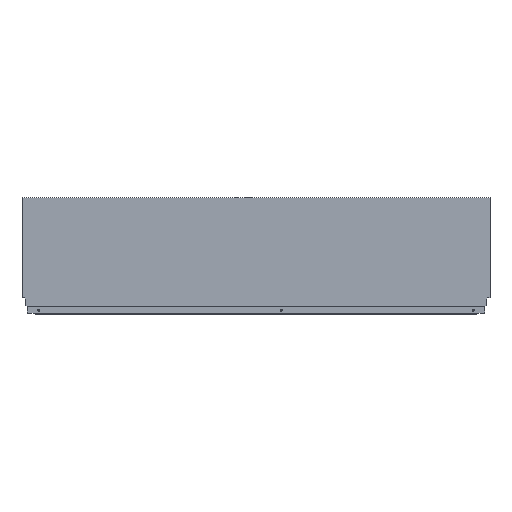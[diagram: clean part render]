
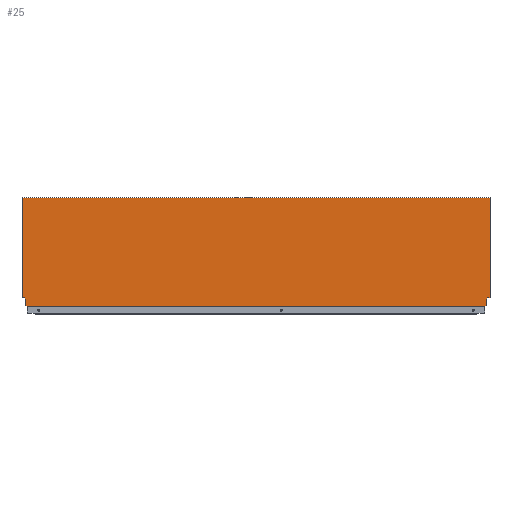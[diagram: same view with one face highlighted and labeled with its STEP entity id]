
A CAD part, top view. The second image highlights one B-rep face of the part: STEP entity #25.
In plain terms, the highlighted planar face has unit normal (0, 0, 1).
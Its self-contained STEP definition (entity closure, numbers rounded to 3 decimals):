
#25 = ADVANCED_FACE ( 'NONE', ( #519 ), #662, .T. ) ;
#39 = LINE ( 'NONE', #721, #46 ) ;
#42 = VECTOR ( 'NONE', #724, 1000. ) ;
#43 = LINE ( 'NONE', #727, #42 ) ;
#44 = VECTOR ( 'NONE', #728, 1000. ) ;
#46 = VECTOR ( 'NONE', #720, 1000. ) ;
#47 = LINE ( 'NONE', #741, #44 ) ;
#54 = VECTOR ( 'NONE', #732, 1000. ) ;
#123 = LINE ( 'NONE', #702, #1257 ) ;
#157 = ORIENTED_EDGE ( 'NONE', *, *, #1489, .F. ) ;
#158 = ORIENTED_EDGE ( 'NONE', *, *, #1488, .F. ) ;
#159 = ORIENTED_EDGE ( 'NONE', *, *, #1487, .F. ) ;
#165 = EDGE_LOOP ( 'NONE', ( #267, #268, #263, #264, #265, #246, #247, #259, #243, #244, #326, #159, #158, #157 ) ) ;
#243 = ORIENTED_EDGE ( 'NONE', *, *, #1486, .F. ) ;
#244 = ORIENTED_EDGE ( 'NONE', *, *, #1483, .F. ) ;
#246 = ORIENTED_EDGE ( 'NONE', *, *, #1476, .F. ) ;
#247 = ORIENTED_EDGE ( 'NONE', *, *, #1475, .T. ) ;
#259 = ORIENTED_EDGE ( 'NONE', *, *, #1484, .F. ) ;
#263 = ORIENTED_EDGE ( 'NONE', *, *, #1477, .F. ) ;
#264 = ORIENTED_EDGE ( 'NONE', *, *, #1482, .F. ) ;
#265 = ORIENTED_EDGE ( 'NONE', *, *, #1479, .F. ) ;
#267 = ORIENTED_EDGE ( 'NONE', *, *, #1481, .T. ) ;
#268 = ORIENTED_EDGE ( 'NONE', *, *, #1480, .F. ) ;
#326 = ORIENTED_EDGE ( 'NONE', *, *, #1485, .F. ) ;
#519 = FACE_OUTER_BOUND ( 'NONE', #165, .T. ) ;
#646 = DIRECTION ( 'NONE',  ( 1., 0., 0. ) ) ;
#648 = DIRECTION ( 'NONE',  ( 0., 0., 1. ) ) ;
#662 = PLANE ( 'NONE',  #1395 ) ;
#665 = CARTESIAN_POINT ( 'NONE',  ( -1117., 0., 8. ) ) ;
#689 = DIRECTION ( 'NONE',  ( 1., 0., 0. ) ) ;
#690 = CARTESIAN_POINT ( 'NONE',  ( -1117., 260.7, 8. ) ) ;
#691 = DIRECTION ( 'NONE',  ( 0., -1., 0. ) ) ;
#692 = CARTESIAN_POINT ( 'NONE',  ( 0., 0., 8. ) ) ;
#694 = DIRECTION ( 'NONE',  ( -1., 0., 0. ) ) ;
#696 = CARTESIAN_POINT ( 'NONE',  ( 0., 21.2, 8. ) ) ;
#698 = DIRECTION ( 'NONE',  ( -0.94, -0.342, 0. ) ) ;
#699 = CARTESIAN_POINT ( 'NONE',  ( -8.9, 2.64, 8. ) ) ;
#701 = DIRECTION ( 'NONE',  ( -0.174, -0.985, 0. ) ) ;
#702 = CARTESIAN_POINT ( 'NONE',  ( -7.06, 21.2, 8. ) ) ;
#704 = DIRECTION ( 'NONE',  ( 0., -1., 0. ) ) ;
#706 = CARTESIAN_POINT ( 'NONE',  ( -13.004, 1.146, 8. ) ) ;
#707 = DIRECTION ( 'NONE',  ( 0., -1., 0. ) ) ;
#709 = CARTESIAN_POINT ( 'NONE',  ( -8.9, 10.765, 8. ) ) ;
#710 = DIRECTION ( 'NONE',  ( 0., 1., 0. ) ) ;
#711 = CARTESIAN_POINT ( 'NONE',  ( -1108.1, 10.765, 8. ) ) ;
#713 = DIRECTION ( 'NONE',  ( 0., -1., 0. ) ) ;
#715 = CARTESIAN_POINT ( 'NONE',  ( -1117., 0., 8. ) ) ;
#717 = DIRECTION ( 'NONE',  ( -1., 0., 0. ) ) ;
#718 = CARTESIAN_POINT ( 'NONE',  ( -1122., 21.2, 8. ) ) ;
#720 = DIRECTION ( 'NONE',  ( -0.94, 0.342, 0. ) ) ;
#721 = CARTESIAN_POINT ( 'NONE',  ( -1108.1, 2.64, 8. ) ) ;
#724 = DIRECTION ( 'NONE',  ( -0.174, 0.985, 0. ) ) ;
#727 = CARTESIAN_POINT ( 'NONE',  ( -1109.94, 21.2, 8. ) ) ;
#728 = DIRECTION ( 'NONE',  ( 0., 1., 0. ) ) ;
#732 = DIRECTION ( 'NONE',  ( 1., 0., 0. ) ) ;
#733 = CARTESIAN_POINT ( 'NONE',  ( -1117., 0., 8. ) ) ;
#741 = CARTESIAN_POINT ( 'NONE',  ( -1103.996, 1.146, 8. ) ) ;
#866 = VERTEX_POINT ( 'NONE', #1072 ) ;
#877 = VERTEX_POINT ( 'NONE', #1067 ) ;
#893 = VERTEX_POINT ( 'NONE', #1061 ) ;
#910 = VERTEX_POINT ( 'NONE', #1055 ) ;
#916 = VERTEX_POINT ( 'NONE', #1053 ) ;
#927 = VERTEX_POINT ( 'NONE', #1049 ) ;
#930 = VERTEX_POINT ( 'NONE', #1048 ) ;
#950 = VERTEX_POINT ( 'NONE', #1041 ) ;
#962 = VERTEX_POINT ( 'NONE', #1038 ) ;
#1004 = CARTESIAN_POINT ( 'NONE',  ( -1109.94, 21.2, 8. ) ) ;
#1010 = CARTESIAN_POINT ( 'NONE',  ( 0., 21.2, 8. ) ) ;
#1012 = CARTESIAN_POINT ( 'NONE',  ( -1103.996, 1.146, 8. ) ) ;
#1015 = CARTESIAN_POINT ( 'NONE',  ( -13.004, 1.146, 8. ) ) ;
#1020 = CARTESIAN_POINT ( 'NONE',  ( -7.06, 21.2, 8. ) ) ;
#1038 = CARTESIAN_POINT ( 'NONE',  ( -1103.996, 0., 8. ) ) ;
#1041 = CARTESIAN_POINT ( 'NONE',  ( -13.004, 0., 8. ) ) ;
#1048 = CARTESIAN_POINT ( 'NONE',  ( -8.9, 2.64, 8. ) ) ;
#1049 = CARTESIAN_POINT ( 'NONE',  ( -8.9, 10.765, 8. ) ) ;
#1053 = CARTESIAN_POINT ( 'NONE',  ( -1108.1, 10.765, 8. ) ) ;
#1055 = CARTESIAN_POINT ( 'NONE',  ( -1117., 21.2, 8. ) ) ;
#1061 = CARTESIAN_POINT ( 'NONE',  ( -1117., 260.7, 8. ) ) ;
#1067 = CARTESIAN_POINT ( 'NONE',  ( 0., 260.7, 8. ) ) ;
#1072 = CARTESIAN_POINT ( 'NONE',  ( -1108.1, 2.64, 8. ) ) ;
#1143 = VERTEX_POINT ( 'NONE', #1020 ) ;
#1168 = VERTEX_POINT ( 'NONE', #1015 ) ;
#1182 = VERTEX_POINT ( 'NONE', #1012 ) ;
#1192 = VERTEX_POINT ( 'NONE', #1010 ) ;
#1217 = VERTEX_POINT ( 'NONE', #1004 ) ;
#1257 = VECTOR ( 'NONE', #701, 1000. ) ;
#1258 = LINE ( 'NONE', #699, #1259 ) ;
#1259 = VECTOR ( 'NONE', #698, 1000. ) ;
#1260 = LINE ( 'NONE', #696, #1261 ) ;
#1261 = VECTOR ( 'NONE', #694, 1000. ) ;
#1262 = LINE ( 'NONE', #692, #1263 ) ;
#1263 = VECTOR ( 'NONE', #691, 1000. ) ;
#1264 = LINE ( 'NONE', #690, #1265 ) ;
#1265 = VECTOR ( 'NONE', #689, 1000. ) ;
#1395 = AXIS2_PLACEMENT_3D ( 'NONE', #665, #648, #646 ) ;
#1475 = EDGE_CURVE ( 'NONE', #962, #950, #1546, .T. ) ;
#1476 = EDGE_CURVE ( 'NONE', #962, #1182, #47, .T. ) ;
#1477 = EDGE_CURVE ( 'NONE', #916, #1217, #43, .T. ) ;
#1479 = EDGE_CURVE ( 'NONE', #1182, #866, #39, .T. ) ;
#1480 = EDGE_CURVE ( 'NONE', #1217, #910, #1521, .T. ) ;
#1481 = EDGE_CURVE ( 'NONE', #893, #910, #1518, .T. ) ;
#1482 = EDGE_CURVE ( 'NONE', #866, #916, #1523, .T. ) ;
#1483 = EDGE_CURVE ( 'NONE', #927, #930, #1526, .T. ) ;
#1484 = EDGE_CURVE ( 'NONE', #1168, #950, #1524, .T. ) ;
#1485 = EDGE_CURVE ( 'NONE', #1143, #927, #123, .T. ) ;
#1486 = EDGE_CURVE ( 'NONE', #930, #1168, #1258, .T. ) ;
#1487 = EDGE_CURVE ( 'NONE', #1192, #1143, #1260, .T. ) ;
#1488 = EDGE_CURVE ( 'NONE', #877, #1192, #1262, .T. ) ;
#1489 = EDGE_CURVE ( 'NONE', #893, #877, #1264, .T. ) ;
#1518 = LINE ( 'NONE', #715, #1519 ) ;
#1519 = VECTOR ( 'NONE', #713, 1000. ) ;
#1520 = VECTOR ( 'NONE', #717, 1000. ) ;
#1521 = LINE ( 'NONE', #718, #1520 ) ;
#1522 = VECTOR ( 'NONE', #704, 1000. ) ;
#1523 = LINE ( 'NONE', #711, #1527 ) ;
#1524 = LINE ( 'NONE', #706, #1522 ) ;
#1525 = VECTOR ( 'NONE', #707, 1000. ) ;
#1526 = LINE ( 'NONE', #709, #1525 ) ;
#1527 = VECTOR ( 'NONE', #710, 1000. ) ;
#1546 = LINE ( 'NONE', #733, #54 ) ;
